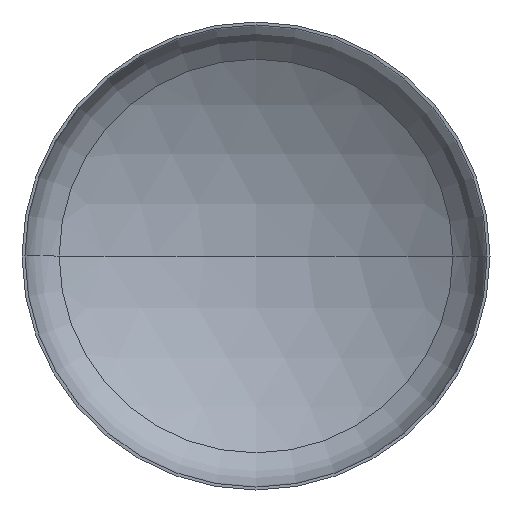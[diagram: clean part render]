
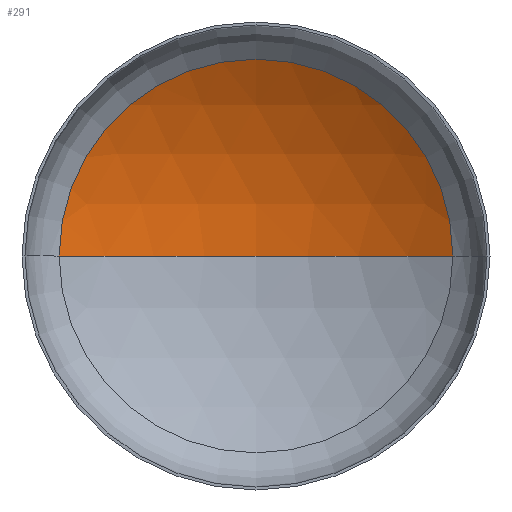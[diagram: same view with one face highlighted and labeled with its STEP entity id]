
A CAD part, front view. The second image highlights one B-rep face of the part: STEP entity #291.
In plain terms, the highlighted spherical face has radius 5600 mm.
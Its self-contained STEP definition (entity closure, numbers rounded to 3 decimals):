
#6 = CARTESIAN_POINT ( 'NONE',  ( 0., -3705.13, 0. ) ) ;
#19 = DIRECTION ( 'NONE',  ( 0., 0., -1. ) ) ;
#20 = CARTESIAN_POINT ( 'NONE',  ( 0., -3705.13, 0. ) ) ;
#25 = AXIS2_PLACEMENT_3D ( 'NONE', #59, #70, #107 ) ;
#35 = CIRCLE ( 'NONE', #81, 5600. ) ;
#42 = ORIENTED_EDGE ( 'NONE', *, *, #181, .F. ) ;
#59 = CARTESIAN_POINT ( 'NONE',  ( 0., -3705.13, 0. ) ) ;
#70 = DIRECTION ( 'NONE',  ( 0., 0., -1. ) ) ;
#81 = AXIS2_PLACEMENT_3D ( 'NONE', #6, #333, #380 ) ;
#85 = AXIS2_PLACEMENT_3D ( 'NONE', #20, #19, #207 ) ;
#87 = VERTEX_POINT ( 'NONE', #247 ) ;
#91 = AXIS2_PLACEMENT_3D ( 'NONE', #187, #189, #190 ) ;
#107 = DIRECTION ( 'NONE',  ( -1., 0., 0. ) ) ;
#124 = EDGE_LOOP ( 'NONE', ( #42, #230, #231 ) ) ;
#144 = VERTEX_POINT ( 'NONE', #243 ) ;
#164 = VERTEX_POINT ( 'NONE', #352 ) ;
#176 = EDGE_CURVE ( 'NONE', #164, #87, #319, .T. ) ;
#180 = EDGE_CURVE ( 'NONE', #144, #164, #263, .T. ) ;
#181 = EDGE_CURVE ( 'NONE', #144, #87, #35, .T. ) ;
#187 = CARTESIAN_POINT ( 'NONE',  ( 0., 1058.748, 0. ) ) ;
#189 = DIRECTION ( 'NONE',  ( 0., -1., 0. ) ) ;
#190 = DIRECTION ( 'NONE',  ( 1., 0., 0. ) ) ;
#207 = DIRECTION ( 'NONE',  ( -1., 0., 0. ) ) ;
#230 = ORIENTED_EDGE ( 'NONE', *, *, #180, .T. ) ;
#231 = ORIENTED_EDGE ( 'NONE', *, *, #176, .T. ) ;
#234 = FACE_OUTER_BOUND ( 'NONE', #124, .T. ) ;
#240 = SPHERICAL_SURFACE ( 'NONE', #25, 5600. ) ;
#243 = CARTESIAN_POINT ( 'NONE',  ( 0., 1894.87, 0. ) ) ;
#247 = CARTESIAN_POINT ( 'NONE',  ( -2943.717, 1058.748, 0. ) ) ;
#263 = CIRCLE ( 'NONE', #85, 5600. ) ;
#291 = ADVANCED_FACE ( 'NONE', ( #234 ), #240, .F. ) ;
#319 = CIRCLE ( 'NONE', #91, 2943.717 ) ;
#333 = DIRECTION ( 'NONE',  ( 0., 0., 1. ) ) ;
#352 = CARTESIAN_POINT ( 'NONE',  ( 2943.717, 1058.748, 0. ) ) ;
#380 = DIRECTION ( 'NONE',  ( 1., 0., 0. ) ) ;
